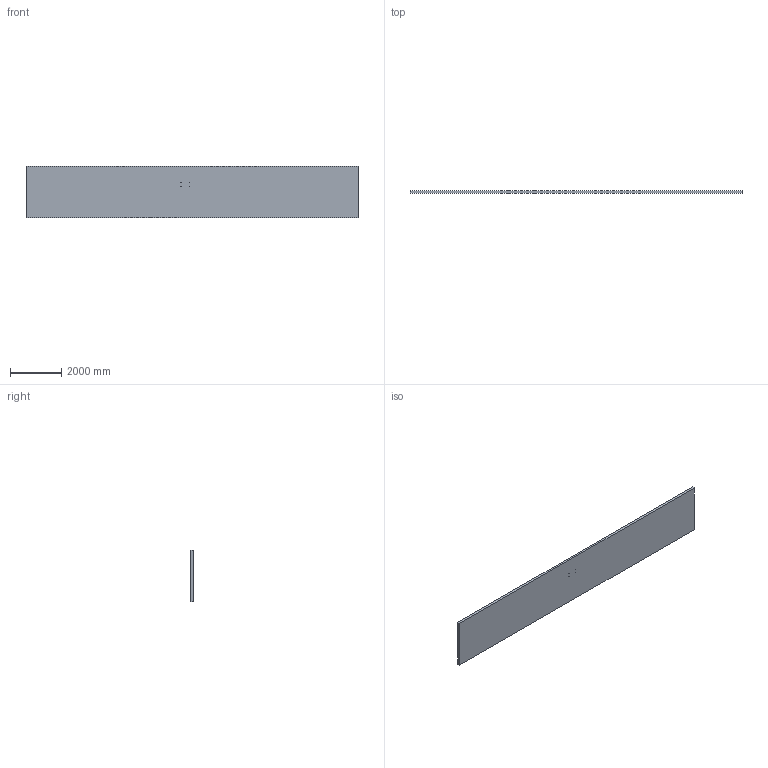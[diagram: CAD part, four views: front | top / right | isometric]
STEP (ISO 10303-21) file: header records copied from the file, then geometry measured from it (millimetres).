
FILE_DESCRIPTION (( 'STEP AP203' ), '1' );
FILE_NAME ('Socle.STEP', '2025-09-18T11:59:43', ( '' ), ( '' ), 'SwSTEP 2.0', 'SolidWorks 2019', '' );
FILE_SCHEMA (( 'CONFIG_CONTROL_DESIGN' ));
Length unit declared in the file: millimetre
Products named in the file (1): Socle
Bounding box: 13000 x 100 x 2000 mm (x, y, z)
Volume: 2599968584.1 mm3; surface area: 55011938.1 mm2
Topology: 1 solids, 1 shells, 14 faces, 36 edges, 24 vertices
Faces by surface type: cylinder 8, plane 6
Entity records: 529 total; most frequent: DIRECTION 82, CARTESIAN_POINT 75, ORIENTED_EDGE 72, EDGE_CURVE 36, AXIS2_PLACEMENT_3D 31, VERTEX_POINT 24, EDGE_LOOP 22, VECTOR 20
